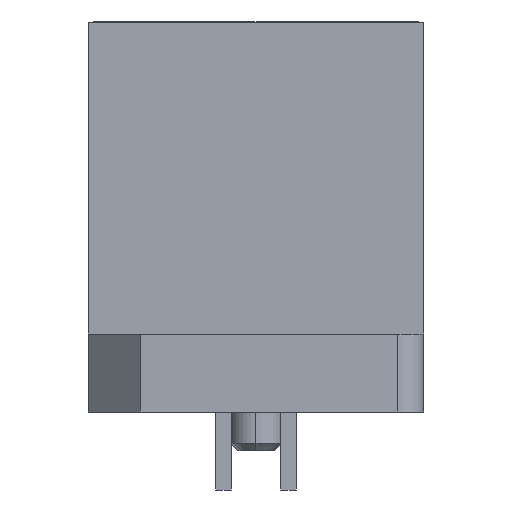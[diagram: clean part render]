
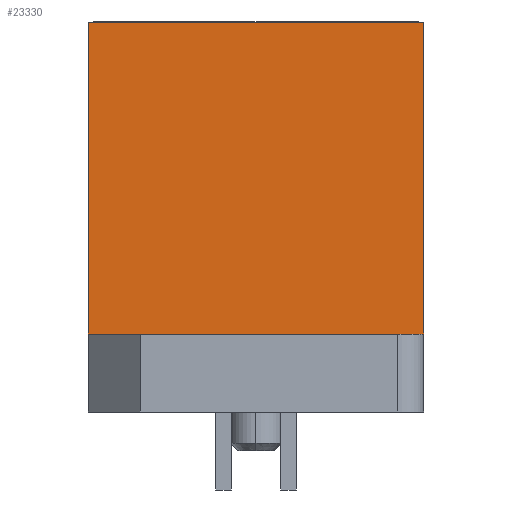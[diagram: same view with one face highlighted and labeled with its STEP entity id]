
A CAD part, left-side view. The second image highlights one B-rep face of the part: STEP entity #23330.
In plain terms, the highlighted planar face has unit normal (-1, 0, 0).
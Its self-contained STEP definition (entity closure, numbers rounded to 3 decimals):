
#21340=CARTESIAN_POINT('',(36.472,5.264,-5.5));
#21350=VERTEX_POINT('',#21340);
#21380=CARTESIAN_POINT('',(36.472,5.264,
-13.));
#21390=DIRECTION('',(0.,0.,-1.));
#21400=VECTOR('',#21390,1.);
#21410=LINE('',#21380,#21400);
#21420=CARTESIAN_POINT('',(36.472,5.264,-17.5));
#21430=VERTEX_POINT('',#21420);
#21440=EDGE_CURVE('',#21350,#21430,#21410,.T.);
#22620=CARTESIAN_POINT('',(36.472,-7.636,-17.5));
#22630=VERTEX_POINT('',#22620);
#22660=CARTESIAN_POINT('',(36.472,-7.636,
-13.));
#22670=DIRECTION('',(0.,0.,1.));
#22680=VECTOR('',#22670,1.);
#22690=LINE('',#22660,#22680);
#22700=CARTESIAN_POINT('',(36.472,-7.636,-5.5));
#22710=VERTEX_POINT('',#22700);
#22720=EDGE_CURVE('',#22630,#22710,#22690,.T.);
#22930=CARTESIAN_POINT('',(36.472,0.364,-17.5));
#22940=DIRECTION('',(0.,1.,0.));
#22950=VECTOR('',#22940,1.);
#22960=LINE('',#22930,#22950);
#22970=EDGE_CURVE('',#22630,#21430,#22960,.T.);
#23170=CARTESIAN_POINT('',(36.472,6.554,-19.1));
#23180=DIRECTION('',(-1.,0.,0.));
#23190=DIRECTION('',(0.,0.,1.));
#23200=AXIS2_PLACEMENT_3D('',#23170,#23180,#23190);
#23210=PLANE('',#23200);
#23220=ORIENTED_EDGE('',*,*,#21440,.T.);
#23230=CARTESIAN_POINT('',(36.472,0.364,-5.5));
#23240=DIRECTION('',(0.,1.,0.));
#23250=VECTOR('',#23240,1.);
#23260=LINE('',#23230,#23250);
#23270=EDGE_CURVE('',#22710,#21350,#23260,.T.);
#23280=ORIENTED_EDGE('',*,*,#23270,.T.);
#23290=ORIENTED_EDGE('',*,*,#22720,.T.);
#23300=ORIENTED_EDGE('',*,*,#22970,.F.);
#23310=EDGE_LOOP('',(#23300,#23290,#23280,#23220));
#23320=FACE_OUTER_BOUND('',#23310,.T.);
#23330=ADVANCED_FACE('',(#23320),#23210,.T.);
